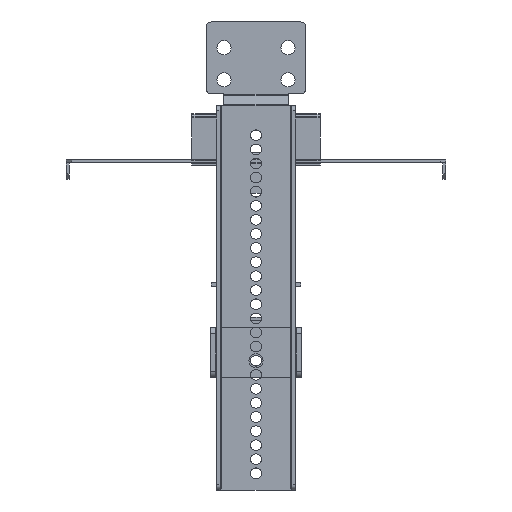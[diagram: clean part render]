
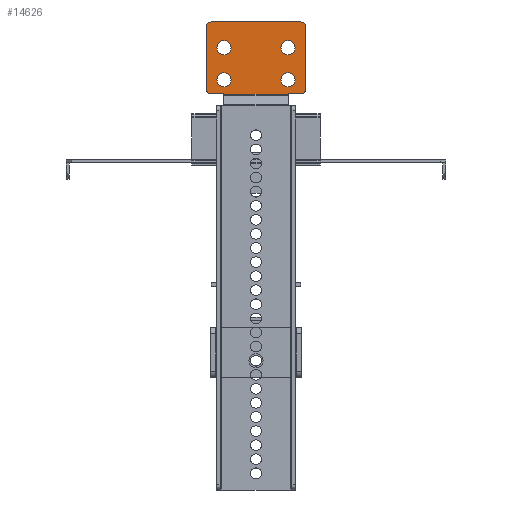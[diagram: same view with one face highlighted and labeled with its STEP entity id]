
A CAD part, left-side view. The second image highlights one B-rep face of the part: STEP entity #14626.
In plain terms, the highlighted planar face has unit normal (-1, 0, 0) as drawn and (0, -1, 0) by its records, which use the part's own axes.
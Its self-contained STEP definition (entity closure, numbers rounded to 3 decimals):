
#11051=CARTESIAN_POINT(' ',(-154.746,-0.003,12.5));
#11052=VERTEX_POINT(' ',#11051);
#11066=CARTESIAN_POINT(' ',(-154.746,-0.003,12.5));
#11071=DIRECTION(' ',(1.,0.,0.));
#11076=VECTOR(' ',#11071,1.);
#11081=LINE('',#11066,#11076);
#11086=CARTESIAN_POINT(' ',(-154.588,-0.003,12.5));
#11087=VERTEX_POINT(' ',#11086);
#11091=EDGE_CURVE(' ',#11052,#11087,#11081,.T.);
#11361=CARTESIAN_POINT(' ',(-154.588,-0.003,-12.5));
#11362=VERTEX_POINT(' ',#11361);
#11376=CARTESIAN_POINT(' ',(-154.588,-0.003,-12.5));
#11381=DIRECTION(' ',(-1.,0.,0.));
#11386=VECTOR(' ',#11381,1.);
#11391=LINE('',#11376,#11386);
#11396=CARTESIAN_POINT(' ',(-154.746,-0.003,-12.5));
#11397=VERTEX_POINT(' ',#11396);
#11401=EDGE_CURVE(' ',#11362,#11397,#11391,.T.);
#13826=CARTESIAN_POINT(' ',(-154.746,-0.003,17.5));
#13827=VERTEX_POINT(' ',#13826);
#13841=CARTESIAN_POINT(' ',(-154.746,-0.003,17.5));
#13846=DIRECTION(' ',(0.,0.,-1.));
#13851=VECTOR(' ',#13846,1.);
#13856=LINE('',#13841,#13851);
#13861=EDGE_CURVE(' ',#13827,#11052,#13856,.T.);
#13891=DIRECTION(' ',(0.,-1.,0.));
#13896=CARTESIAN_POINT(' ',(-182.746,-0.003,19.5));
#13901=DIRECTION(' ',(0.,0.,-1.));
#13906=AXIS2_PLACEMENT_3D(' ',#13896,#13891,#13901);
#13911=PLANE('NONE',#13906);
#13916=CARTESIAN_POINT(' ',(-180.746,-0.003,19.5));
#13921=DIRECTION(' ',(1.,0.,0.));
#13926=VECTOR(' ',#13921,1.);
#13931=LINE('',#13916,#13926);
#13936=CARTESIAN_POINT(' ',(-180.746,-0.003,19.5));
#13937=VERTEX_POINT(' ',#13936);
#13941=CARTESIAN_POINT(' ',(-156.746,-0.003,19.5));
#13942=VERTEX_POINT(' ',#13941);
#13946=EDGE_CURVE(' ',#13937,#13942,#13931,.T.);
#13951=ORIENTED_EDGE(' ',*,*,#13946,.F.);
#13956=CARTESIAN_POINT(' ',(-180.746,-0.003,17.5));
#13961=DIRECTION(' ',(0.,-1.,0.));
#13966=DIRECTION(' ',(0.,0.,1.));
#13971=AXIS2_PLACEMENT_3D(' ',#13956,#13961,#13966);
#13976=CIRCLE('',#13971,2.);
#13981=CARTESIAN_POINT(' ',(-182.746,-0.003,17.5));
#13982=VERTEX_POINT(' ',#13981);
#13986=EDGE_CURVE(' ',#13937,#13982,#13976,.T.);
#13991=ORIENTED_EDGE(' ',*,*,#13986,.T.);
#13996=CARTESIAN_POINT(' ',(-182.746,-0.003,-17.5));
#14001=DIRECTION(' ',(0.,0.,1.));
#14006=VECTOR(' ',#14001,1.);
#14011=LINE('',#13996,#14006);
#14016=CARTESIAN_POINT(' ',(-182.746,-0.003,-17.5));
#14017=VERTEX_POINT(' ',#14016);
#14021=EDGE_CURVE(' ',#14017,#13982,#14011,.T.);
#14026=ORIENTED_EDGE(' ',*,*,#14021,.F.);
#14031=CARTESIAN_POINT(' ',(-180.746,-0.003,-17.5));
#14036=DIRECTION(' ',(0.,-1.,0.));
#14041=DIRECTION(' ',(-1.,0.,0.));
#14046=AXIS2_PLACEMENT_3D(' ',#14031,#14036,#14041);
#14051=CIRCLE('',#14046,2.);
#14056=CARTESIAN_POINT(' ',(-180.746,-0.003,-19.5));
#14057=VERTEX_POINT(' ',#14056);
#14061=EDGE_CURVE(' ',#14017,#14057,#14051,.T.);
#14066=ORIENTED_EDGE(' ',*,*,#14061,.T.);
#14071=CARTESIAN_POINT(' ',(-156.746,-0.003,-19.5));
#14076=DIRECTION(' ',(-1.,0.,0.));
#14081=VECTOR(' ',#14076,1.);
#14086=LINE('',#14071,#14081);
#14091=CARTESIAN_POINT(' ',(-156.746,-0.003,-19.5));
#14092=VERTEX_POINT(' ',#14091);
#14096=EDGE_CURVE(' ',#14092,#14057,#14086,.T.);
#14101=ORIENTED_EDGE(' ',*,*,#14096,.F.);
#14106=CARTESIAN_POINT(' ',(-156.746,-0.003,-17.5));
#14111=DIRECTION(' ',(0.,-1.,0.));
#14116=DIRECTION(' ',(0.,0.,-1.));
#14121=AXIS2_PLACEMENT_3D(' ',#14106,#14111,#14116);
#14126=CIRCLE('',#14121,2.);
#14131=CARTESIAN_POINT(' ',(-154.746,-0.003,-17.5));
#14132=VERTEX_POINT(' ',#14131);
#14136=EDGE_CURVE(' ',#14092,#14132,#14126,.T.);
#14141=ORIENTED_EDGE(' ',*,*,#14136,.T.);
#14146=CARTESIAN_POINT(' ',(-154.746,-0.003,-12.5));
#14151=DIRECTION(' ',(0.,0.,-1.));
#14156=VECTOR(' ',#14151,1.);
#14161=LINE('',#14146,#14156);
#14166=EDGE_CURVE(' ',#11397,#14132,#14161,.T.);
#14171=ORIENTED_EDGE(' ',*,*,#14166,.F.);
#14176=ORIENTED_EDGE(' ',*,*,#11401,.F.);
#14181=CARTESIAN_POINT(' ',(-154.588,-0.003,-12.5));
#14186=DIRECTION(' ',(0.,0.,1.));
#14191=VECTOR(' ',#14186,1.);
#14196=LINE('',#14181,#14191);
#14201=EDGE_CURVE(' ',#11362,#11087,#14196,.T.);
#14206=ORIENTED_EDGE(' ',*,*,#14201,.T.);
#14211=ORIENTED_EDGE(' ',*,*,#11091,.F.);
#14216=ORIENTED_EDGE(' ',*,*,#13861,.F.);
#14221=CARTESIAN_POINT(' ',(-156.746,-0.003,17.5));
#14226=DIRECTION(' ',(0.,-1.,0.));
#14231=DIRECTION(' ',(1.,0.,0.));
#14236=AXIS2_PLACEMENT_3D(' ',#14221,#14226,#14231);
#14241=CIRCLE('',#14236,2.);
#14246=EDGE_CURVE(' ',#13827,#13942,#14241,.T.);
#14251=ORIENTED_EDGE(' ',*,*,#14246,.T.);
#14256=EDGE_LOOP(' ',(#13951,#13991,#14026,#14066,#14101,#14141,#14171,#14176,#14206,#14211,#14216,#14251));
#14261=FACE_OUTER_BOUND(' ',#14256,.T.);
#14266=CARTESIAN_POINT(' ',(-160.246,-0.003,12.5));
#14271=DIRECTION(' ',(0.,-1.,0.));
#14276=DIRECTION(' ',(-1.,0.,0.));
#14281=AXIS2_PLACEMENT_3D(' ',#14266,#14271,#14276);
#14286=CIRCLE('',#14281,2.75);
#14291=CARTESIAN_POINT(' ',(-162.996,-0.003,12.5));
#14292=VERTEX_POINT(' ',#14291);
#14296=CARTESIAN_POINT(' ',(-157.496,-0.003,12.5));
#14297=VERTEX_POINT(' ',#14296);
#14301=EDGE_CURVE(' ',#14292,#14297,#14286,.T.);
#14306=ORIENTED_EDGE(' ',*,*,#14301,.F.);
#14311=CARTESIAN_POINT(' ',(-160.246,-0.003,12.5));
#14316=DIRECTION(' ',(0.,-1.,-0.));
#14321=DIRECTION(' ',(1.,0.,0.));
#14326=AXIS2_PLACEMENT_3D(' ',#14311,#14316,#14321);
#14331=CIRCLE('',#14326,2.75);
#14336=EDGE_CURVE(' ',#14297,#14292,#14331,.T.);
#14341=ORIENTED_EDGE(' ',*,*,#14336,.F.);
#14346=EDGE_LOOP(' ',(#14306,#14341));
#14351=FACE_BOUND(' ',#14346,.T.);
#14356=CARTESIAN_POINT(' ',(-172.746,-0.003,12.5));
#14361=DIRECTION(' ',(0.,-1.,0.));
#14366=DIRECTION(' ',(-1.,0.,0.));
#14371=AXIS2_PLACEMENT_3D(' ',#14356,#14361,#14366);
#14376=CIRCLE('',#14371,2.75);
#14381=CARTESIAN_POINT(' ',(-175.496,-0.003,12.5));
#14382=VERTEX_POINT(' ',#14381);
#14386=CARTESIAN_POINT(' ',(-169.996,-0.003,12.5));
#14387=VERTEX_POINT(' ',#14386);
#14391=EDGE_CURVE(' ',#14382,#14387,#14376,.T.);
#14396=ORIENTED_EDGE(' ',*,*,#14391,.F.);
#14401=CARTESIAN_POINT(' ',(-172.746,-0.003,12.5));
#14406=DIRECTION(' ',(0.,-1.,-0.));
#14411=DIRECTION(' ',(1.,0.,0.));
#14416=AXIS2_PLACEMENT_3D(' ',#14401,#14406,#14411);
#14421=CIRCLE('',#14416,2.75);
#14426=EDGE_CURVE(' ',#14387,#14382,#14421,.T.);
#14431=ORIENTED_EDGE(' ',*,*,#14426,.F.);
#14436=EDGE_LOOP(' ',(#14396,#14431));
#14441=FACE_BOUND(' ',#14436,.T.);
#14446=CARTESIAN_POINT(' ',(-172.746,-0.003,-12.5));
#14451=DIRECTION(' ',(0.,-1.,0.));
#14456=DIRECTION(' ',(-1.,0.,0.));
#14461=AXIS2_PLACEMENT_3D(' ',#14446,#14451,#14456);
#14466=CIRCLE('',#14461,2.75);
#14471=CARTESIAN_POINT(' ',(-175.496,-0.003,-12.5));
#14472=VERTEX_POINT(' ',#14471);
#14476=CARTESIAN_POINT(' ',(-169.996,-0.003,-12.5));
#14477=VERTEX_POINT(' ',#14476);
#14481=EDGE_CURVE(' ',#14472,#14477,#14466,.T.);
#14486=ORIENTED_EDGE(' ',*,*,#14481,.F.);
#14491=CARTESIAN_POINT(' ',(-172.746,-0.003,-12.5));
#14496=DIRECTION(' ',(0.,-1.,-0.));
#14501=DIRECTION(' ',(1.,0.,0.));
#14506=AXIS2_PLACEMENT_3D(' ',#14491,#14496,#14501);
#14511=CIRCLE('',#14506,2.75);
#14516=EDGE_CURVE(' ',#14477,#14472,#14511,.T.);
#14521=ORIENTED_EDGE(' ',*,*,#14516,.F.);
#14526=EDGE_LOOP(' ',(#14486,#14521));
#14531=FACE_BOUND(' ',#14526,.T.);
#14536=CARTESIAN_POINT(' ',(-160.246,-0.003,-12.5));
#14541=DIRECTION(' ',(0.,-1.,0.));
#14546=DIRECTION(' ',(-1.,0.,0.));
#14551=AXIS2_PLACEMENT_3D(' ',#14536,#14541,#14546);
#14556=CIRCLE('',#14551,2.75);
#14561=CARTESIAN_POINT(' ',(-162.996,-0.003,-12.5));
#14562=VERTEX_POINT(' ',#14561);
#14566=CARTESIAN_POINT(' ',(-157.496,-0.003,-12.5));
#14567=VERTEX_POINT(' ',#14566);
#14571=EDGE_CURVE(' ',#14562,#14567,#14556,.T.);
#14576=ORIENTED_EDGE(' ',*,*,#14571,.F.);
#14581=CARTESIAN_POINT(' ',(-160.246,-0.003,-12.5));
#14586=DIRECTION(' ',(0.,-1.,-0.));
#14591=DIRECTION(' ',(1.,0.,0.));
#14596=AXIS2_PLACEMENT_3D(' ',#14581,#14586,#14591);
#14601=CIRCLE('',#14596,2.75);
#14606=EDGE_CURVE(' ',#14567,#14562,#14601,.T.);
#14611=ORIENTED_EDGE(' ',*,*,#14606,.F.);
#14616=EDGE_LOOP(' ',(#14576,#14611));
#14621=FACE_BOUND(' ',#14616,.T.);
#14626=ADVANCED_FACE('NONE',(#14261,#14351,#14441,#14531,#14621),#13911,.T.);
